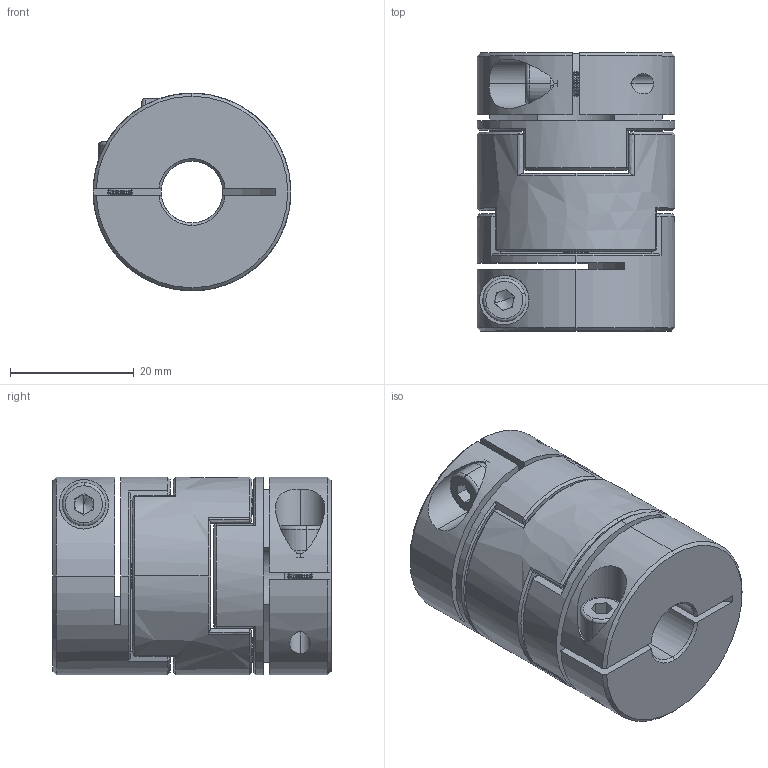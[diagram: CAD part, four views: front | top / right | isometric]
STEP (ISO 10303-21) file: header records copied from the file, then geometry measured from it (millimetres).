
FILE_DESCRIPTION (( 'STEP AP203' ), '1' );
FILE_NAME ('LZ-B-D32L45-10-14.STEP', '2021-10-29T06:44:40', ( '' ), ( '' ), 'SwSTEP 2.0', 'SolidWorks 2018', '' );
FILE_SCHEMA (( 'CONFIG_CONTROL_DESIGN' ));
Length unit declared in the file: millimetre
Products named in the file (1): LZ-B-D32L45-10-14
Bounding box: 32 x 45 x 32 mm (x, y, z)
Volume: 28002.4 mm3; surface area: 13106.3 mm2
Topology: 1 solids, 1 shells, 356 faces, 856 edges, 498 vertices
Faces by surface type: cone 118, cylinder 92, plane 84, bspline 54, torus 8
Entity records: 11145 total; most frequent: CARTESIAN_POINT 3197, ORIENTED_EDGE 1704, DIRECTION 1578, EDGE_CURVE 852, AXIS2_PLACEMENT_3D 619, VERTEX_POINT 498, EDGE_LOOP 382, FACE_OUTER_BOUND 356
